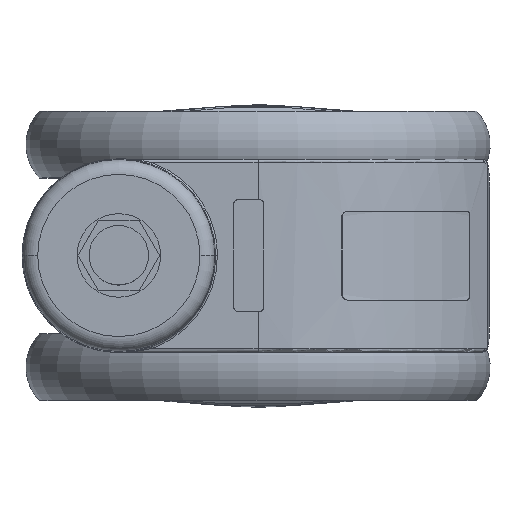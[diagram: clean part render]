
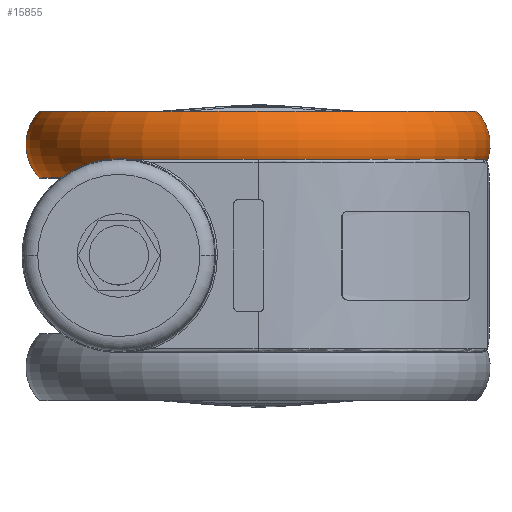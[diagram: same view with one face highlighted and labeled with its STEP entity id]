
A CAD part, top view. The second image highlights one B-rep face of the part: STEP entity #15855.
In plain terms, the highlighted toroidal (fillet/blend) face has major radius 49.5 mm and minor radius 13 mm.
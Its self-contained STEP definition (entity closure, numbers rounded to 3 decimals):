
#204=TOROIDAL_SURFACE('',#75416,49.5,13.);
#388=FACE_BOUND('',#23733,.T.);
#389=FACE_BOUND('',#23734,.T.);
#15855=ADVANCED_FACE('',(#388,#389),#204,.T.);
#23733=EDGE_LOOP('',(#40501));
#23734=EDGE_LOOP('',(#40502));
#26969=CIRCLE('',#75414,58.923);
#26970=CIRCLE('',#75415,58.923);
#40501=ORIENTED_EDGE('',*,*,#63780,.F.);
#40502=ORIENTED_EDGE('',*,*,#63781,.T.);
#54311=VERTEX_POINT('',#132871);
#54312=VERTEX_POINT('',#132873);
#63780=EDGE_CURVE('',#54311,#54311,#26969,.T.);
#63781=EDGE_CURVE('',#54312,#54312,#26970,.T.);
#75414=AXIS2_PLACEMENT_3D('',#132870,#87580,#87581);
#75415=AXIS2_PLACEMENT_3D('',#132872,#87582,#87583);
#75416=AXIS2_PLACEMENT_3D('',#132874,#87584,#87585);
#87580=DIRECTION('',(0.,-1.,0.));
#87581=DIRECTION('',(0.,0.,-1.));
#87582=DIRECTION('',(0.,-1.,0.));
#87583=DIRECTION('',(0.,0.,-1.));
#87584=DIRECTION('',(0.,-1.,0.));
#87585=DIRECTION('',(0.,0.,-1.));
#132870=CARTESIAN_POINT('',(37.496,21.,-115.06));
#132871=CARTESIAN_POINT('',(37.496,21.,-173.983));
#132872=CARTESIAN_POINT('',(37.496,38.911,-115.06));
#132873=CARTESIAN_POINT('',(37.496,38.911,-173.983));
#132874=CARTESIAN_POINT('',(37.496,29.955,-115.06));
